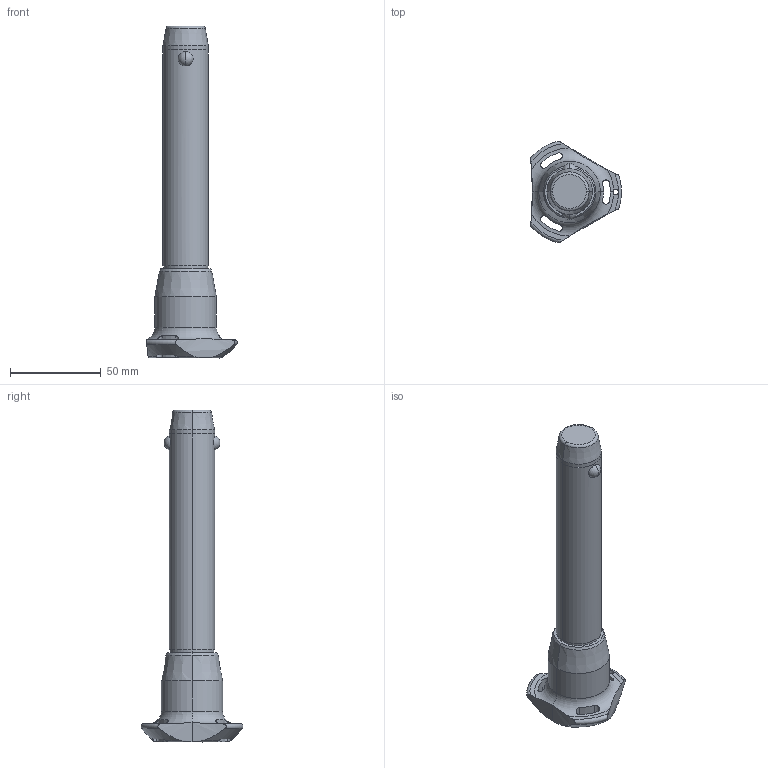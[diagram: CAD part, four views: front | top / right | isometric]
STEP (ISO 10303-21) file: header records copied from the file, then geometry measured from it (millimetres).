
FILE_DESCRIPTION (( 'STEP AP203' ), '1' );
FILE_NAME ('QR1726.M25-110-T.step', '2025-11-13T11:29:55', ( '' ), ( '' ), 'SwSTEP 2.0', 'SolidWorks 2019', '' );
FILE_SCHEMA (( 'CONFIG_CONTROL_DESIGN' ));
Length unit declared in the file: millimetre
Products named in the file (1): QR1726.M25-110-T
Bounding box: 50.04 x 56.02 x 182.7 mm (x, y, z)
Volume: 112447.9 mm3; surface area: 20089.2 mm2
Topology: 1 solids, 1 shells, 68 faces, 182 edges, 115 vertices
Faces by surface type: cylinder 32, cone 14, torus 11, sphere 6, plane 5
Entity records: 2938 total; most frequent: CARTESIAN_POINT 1192, ORIENTED_EDGE 364, DIRECTION 345, EDGE_CURVE 182, AXIS2_PLACEMENT_3D 154, VERTEX_POINT 115, CIRCLE 85, EDGE_LOOP 75
